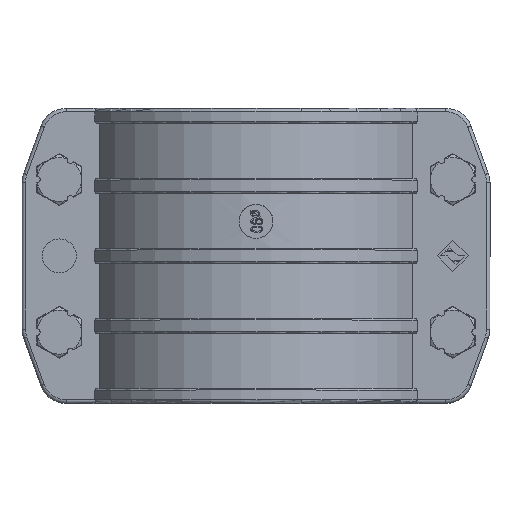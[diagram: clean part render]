
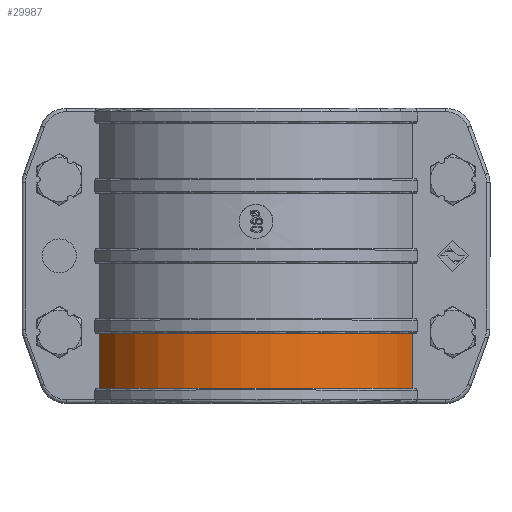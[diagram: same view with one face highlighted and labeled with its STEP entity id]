
A CAD part, top view. The second image highlights one B-rep face of the part: STEP entity #29987.
In plain terms, the highlighted cylindrical face has radius 52 mm (diameter 104 mm), a partial arc.
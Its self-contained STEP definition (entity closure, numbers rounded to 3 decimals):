
#806 = DIRECTION ( 'NONE',  ( -1., 0., 0. ) ) ;
#2096 = ORIENTED_EDGE ( 'NONE', *, *, #37918, .F. ) ;
#4021 = CIRCLE ( 'NONE', #10618, 52. ) ;
#5272 = CARTESIAN_POINT ( 'NONE',  ( 46.13, -39.1, -24. ) ) ;
#5498 = CARTESIAN_POINT ( 'NONE',  ( -46.13, 43.5, -24. ) ) ;
#6337 = DIRECTION ( 'NONE',  ( -1., 0., 0. ) ) ;
#7381 = DIRECTION ( 'NONE',  ( 0., 1., 0. ) ) ;
#8813 = VECTOR ( 'NONE', #24164, 1000. ) ;
#9048 = EDGE_CURVE ( 'NONE', #45446, #23562, #44072, .T. ) ;
#10618 = AXIS2_PLACEMENT_3D ( 'NONE', #45060, #20625, #806 ) ;
#11656 = CIRCLE ( 'NONE', #44797, 52. ) ;
#14151 = CYLINDRICAL_SURFACE ( 'NONE', #19480, 52. ) ;
#17251 = CARTESIAN_POINT ( 'NONE',  ( 46.13, 43.5, -24. ) ) ;
#19480 = AXIS2_PLACEMENT_3D ( 'NONE', #38824, #20402, #6337 ) ;
#20402 = DIRECTION ( 'NONE',  ( 0., 1., 0. ) ) ;
#20625 = DIRECTION ( 'NONE',  ( 0., 1., 0. ) ) ;
#23562 = VERTEX_POINT ( 'NONE', #5272 ) ;
#23902 = EDGE_CURVE ( 'NONE', #26823, #34104, #30611, .T. ) ;
#24065 = FACE_OUTER_BOUND ( 'NONE', #38632, .T. ) ;
#24164 = DIRECTION ( 'NONE',  ( 0., -1., 0. ) ) ;
#25001 = EDGE_CURVE ( 'NONE', #23562, #26823, #4021, .T. ) ;
#26823 = VERTEX_POINT ( 'NONE', #32928 ) ;
#29009 = VECTOR ( 'NONE', #41425, 1000. ) ;
#29987 = ADVANCED_FACE ( 'NONE', ( #24065 ), #14151, .T. ) ;
#30611 = LINE ( 'NONE', #5498, #29009 ) ;
#30799 = ORIENTED_EDGE ( 'NONE', *, *, #9048, .T. ) ;
#32678 = CARTESIAN_POINT ( 'NONE',  ( -46.13, -22.85, -24. ) ) ;
#32726 = ORIENTED_EDGE ( 'NONE', *, *, #23902, .T. ) ;
#32747 = CARTESIAN_POINT ( 'NONE',  ( 0., -22.85, 0. ) ) ;
#32928 = CARTESIAN_POINT ( 'NONE',  ( -46.13, -39.1, -24. ) ) ;
#34104 = VERTEX_POINT ( 'NONE', #32678 ) ;
#35962 = DIRECTION ( 'NONE',  ( -1., 0., 0. ) ) ;
#37918 = EDGE_CURVE ( 'NONE', #45446, #34104, #11656, .T. ) ;
#38211 = CARTESIAN_POINT ( 'NONE',  ( 46.13, -22.85, -24. ) ) ;
#38632 = EDGE_LOOP ( 'NONE', ( #2096, #30799, #40221, #32726 ) ) ;
#38824 = CARTESIAN_POINT ( 'NONE',  ( 0., 43.5, 0. ) ) ;
#40221 = ORIENTED_EDGE ( 'NONE', *, *, #25001, .T. ) ;
#41425 = DIRECTION ( 'NONE',  ( 0., 1., 0. ) ) ;
#44072 = LINE ( 'NONE', #17251, #8813 ) ;
#44797 = AXIS2_PLACEMENT_3D ( 'NONE', #32747, #7381, #35962 ) ;
#45060 = CARTESIAN_POINT ( 'NONE',  ( 0., -39.1, 0. ) ) ;
#45446 = VERTEX_POINT ( 'NONE', #38211 ) ;
